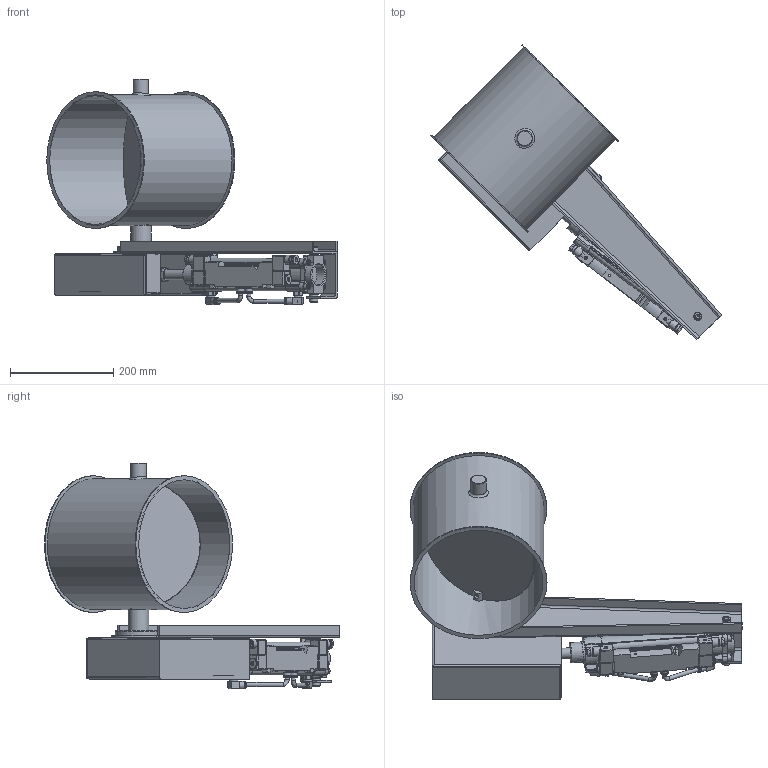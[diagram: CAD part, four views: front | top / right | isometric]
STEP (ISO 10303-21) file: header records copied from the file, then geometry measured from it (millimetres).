
FILE_DESCRIPTION((''),'2;1');
FILE_NAME('U:\Wolfgang\Marcel-3D\fertig\Kapitel 8\2521211.stp','2012-01-13T11:14:23',('iwienholt'),(''),'Autodesk Inventor 2010','Autodesk Inventor 2010','');
FILE_SCHEMA(('AUTOMOTIVE_DESIGN { 1 0 10303 214 1 1 1 1 }'));
Length unit declared in the file: millimetre
Products named in the file (33): 2521211; BuchseD20 90-50; Bolzen D20; Scheibe250b; F1 Zylindereinheit d20; 4527_MSFG_24_42_50_60_6_0; 4527_MSFG_24_42_50_60_6_01; 4527_MSFG_24_42_50_60_6_02; 537600_VUVB_S_B42_ZD_Q8_3AC1_6_0; 537600_VUVB_S_B42_ZD_Q8_3AC1_6_01; 537600_VUVB_S_B42_ZD_Q8_3AC1_6_02; 537600_VUVB_S_B42_ZD_Q8_3AC1_6_03; 153414_QSRL_1_4_8_6_0; schlauch; Schutzkasten; Kasten-a; Kasten-b; 532756_DNCB_50_160_PPV_A_6_0; 532756_DNCB_50_160_PPV_A_6_01; 532756_DNCB_50_160_PPV_A_6_02; 6146_SG_M16x15_6_0; 6146_SG_M16x15_6_01; 6146_SG_M16x15_6_02; 174413_ZNCF_50_6_0; 174413_ZNCF_50_6_01; 174413_ZNCF_50_6_02; 174413_ZNCF_50_6_03; 174413_ZNCF_50_6_04; 174413_ZNCF_50_6_05; 0021088 d20; Strebe d20; Bolzen20; 2521211-1
Assembly tree (36 placements, depth 4):
  2521211
    BuchseD20 90-50
    Bolzen D20  x2
    Scheibe250b
    F1 Zylindereinheit d20
      4527_MSFG_24_42_50_60_6_0  x2
        4527_MSFG_24_42_50_60_6_01
        4527_MSFG_24_42_50_60_6_02
      537600_VUVB_S_B42_ZD_Q8_3AC1_6_0
        537600_VUVB_S_B42_ZD_Q8_3AC1_6_01
        537600_VUVB_S_B42_ZD_Q8_3AC1_6_02
        537600_VUVB_S_B42_ZD_Q8_3AC1_6_03
      153414_QSRL_1_4_8_6_0  x2
      schlauch  x2
      Schutzkasten
        Kasten-a
        Kasten-b
      532756_DNCB_50_160_PPV_A_6_0
        532756_DNCB_50_160_PPV_A_6_01
        532756_DNCB_50_160_PPV_A_6_02
      6146_SG_M16x15_6_0
        6146_SG_M16x15_6_01
        6146_SG_M16x15_6_02
      174413_ZNCF_50_6_0
        174413_ZNCF_50_6_01
        174413_ZNCF_50_6_02
        174413_ZNCF_50_6_03
        174413_ZNCF_50_6_04
        174413_ZNCF_50_6_05
      0021088 d20
      Strebe d20
      Bolzen20
    2521211-1
Bounding box: 562.15 x 571.34 x 437.27 mm (x, y, z)
Volume: 2338339.1 mm3; surface area: 1254356.2 mm2
Topology: 30 solids, 30 shells, 2510 faces, 6747 edges, 4410 vertices
Faces by surface type: plane 1899, cylinder 426, cone 146, bspline 27, torus 10, sphere 2
Full cylindrical faces by diameter (mm): 1 x6, 2.459 x2, 3 x4, 3.5 x2, 4 x2, 4.5 x1, 5 x4, 5.471 x2, 5.5 x2, 6 x16, 6.647 x8, 7.188 x2, 8 x22, 8.05 x2, 9 x6, 9.6 x2, 10 x2, 10.15 x2, 11.445 x2, 12 x2, 13 x4, 13.05 x2, 13.157 x2, 13.346 x1, 14 x6, 14.376 x2, 14.4 x4, 14.5 x2, 14.7 x6, 15.1 x2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
Entity records: 72201 total; most frequent: CARTESIAN_POINT 13823, ORIENTED_EDGE 11682, DIRECTION 11212, EDGE_CURVE 5841, VECTOR 4782, LINE 4782, VERTEX_POINT 3959, EDGE_LOOP 3242
